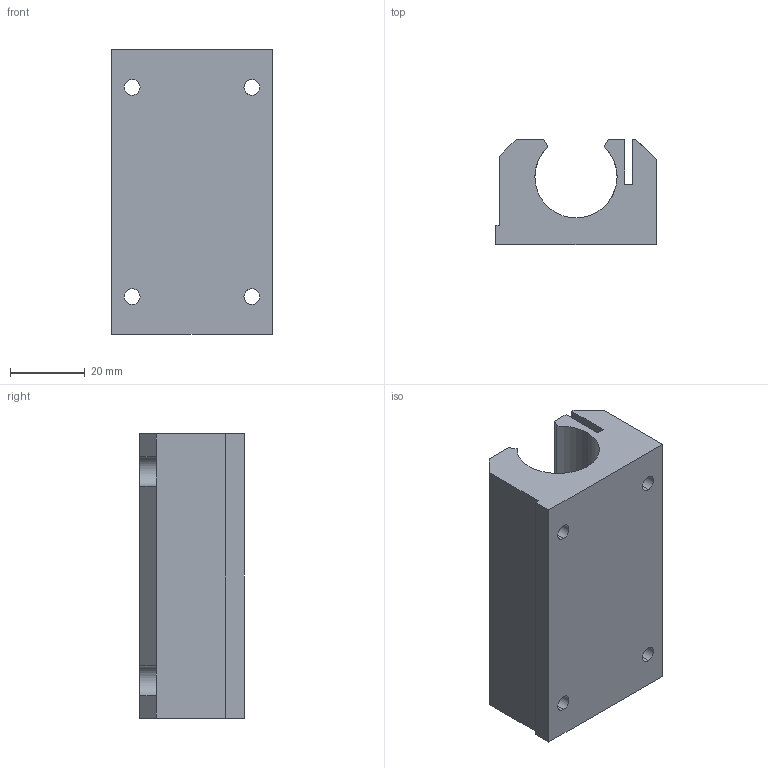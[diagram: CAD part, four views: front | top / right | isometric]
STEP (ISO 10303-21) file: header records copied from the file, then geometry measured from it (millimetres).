
FILE_DESCRIPTION (( 'STEP AP214' ), '1' );
FILE_NAME ('KTGOE34-12.step', '2020-03-04T13:29:00', ( '' ), ( '' ), 'SwSTEP 2.0', 'SolidWorks 2019', '' );
FILE_SCHEMA (( 'AUTOMOTIVE_DESIGN' ));
Length unit declared in the file: millimetre
Products named in the file (1): KTGOE34-12
Bounding box: 43 x 28 x 76 mm (x, y, z)
Volume: 53749.9 mm3; surface area: 18321.9 mm2
Topology: 1 solids, 1 shells, 83 faces, 251 edges, 162 vertices
Faces by surface type: plane 41, cylinder 38, cone 4
Entity records: 3272 total; most frequent: CARTESIAN_POINT 703, ORIENTED_EDGE 502, DIRECTION 478, EDGE_CURVE 251, AXIS2_PLACEMENT_3D 165, VERTEX_POINT 162, LINE 148, VECTOR 148
